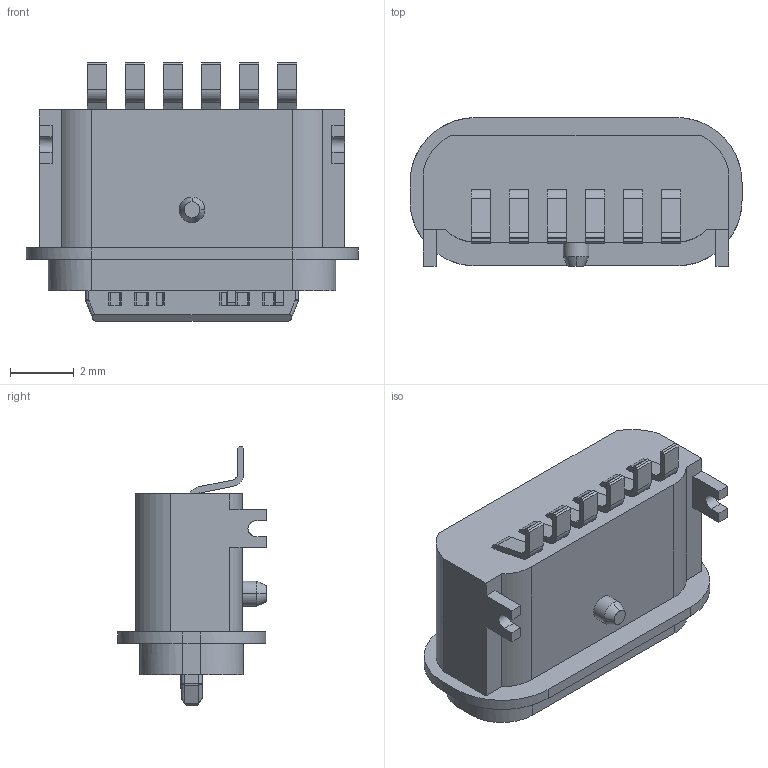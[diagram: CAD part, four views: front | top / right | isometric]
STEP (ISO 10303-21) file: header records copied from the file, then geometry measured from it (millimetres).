
FILE_DESCRIPTION (( 'STEP AP203' ), '1' );
FILE_NAME ('U5493-06PNW6.65LF.STEP', '2026-10-16T08:32:05', ( '' ), ( '' ), 'SwSTEP 2.0', 'SolidWorks 2024', '' );
FILE_SCHEMA (( 'CONFIG_CONTROL_DESIGN' ));
Length unit declared in the file: millimetre
Products named in the file (1): U5493-06PNW6.65LF
Bounding box: 10.44 x 4.68 x 8.12 mm (x, y, z)
Volume: 131.1 mm3; surface area: 403 mm2
Topology: 1 solids, 1 shells, 462 faces, 1283 edges, 832 vertices
Faces by surface type: bspline 462
Entity records: 14191 total; most frequent: CARTESIAN_POINT 6486, ORIENTED_EDGE 2550, EDGE_CURVE 1275, B_SPLINE_CURVE_WITH_KNOTS 1165, VERTEX_POINT 832, EDGE_LOOP 489, ADVANCED_FACE 462, FACE_OUTER_BOUND 462
